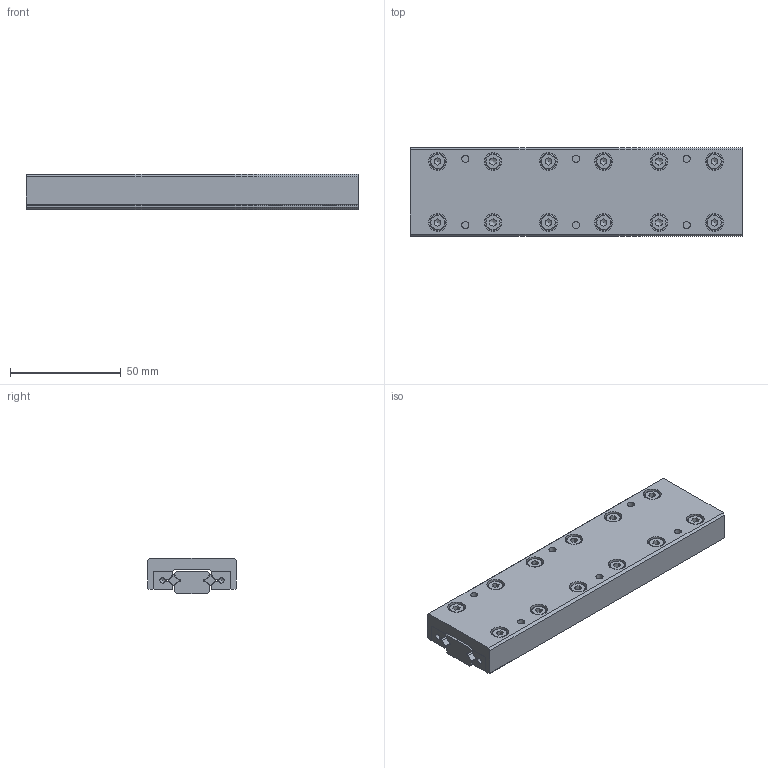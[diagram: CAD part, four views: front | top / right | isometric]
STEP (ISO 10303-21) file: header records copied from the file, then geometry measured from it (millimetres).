
FILE_DESCRIPTION((''),'2;1');
FILE_NAME('D:\製品 (図面)\カタログ用3D\リニアガイド関連\STEP形式\CRT3\CRT3150.stp','2010-07-29T15:49:53',('Tsuchiya'),(''),'Autodesk Inventor 10','Autodesk Inventor 10','');
FILE_SCHEMA(('AUTOMOTIVE_DESIGN { 1 0 10303 214 1 1 1 1 }'));
Length unit declared in the file: millimetre
Products named in the file (5): CRT3150; CRT31501; CRT31502; CRT31503; CRT31504
Assembly tree (4 placements, depth 2):
  CRT3150
    CRT31501
    CRT31502
    CRT31503
    CRT31504
Bounding box: 150 x 40 x 16 mm (x, y, z)
Volume: 79331.1 mm3; surface area: 38430.3 mm2
Topology: 4 solids, 16 shells, 413 faces, 934 edges, 616 vertices
Faces by surface type: plane 248, bspline 85, cylinder 42, cone 38
Full cylindrical faces by diameter (mm): 2.459 x2, 4 x24, 7 x12
Entity records: 11230 total; most frequent: CARTESIAN_POINT 2927, DIRECTION 1572, ORIENTED_EDGE 1508, EDGE_CURVE 754, EDGE_LOOP 646, VERTEX_POINT 568, AXIS2_PLACEMENT_3D 553, VECTOR 466
